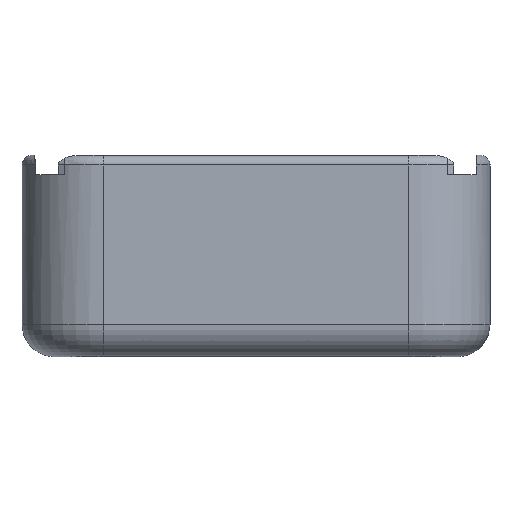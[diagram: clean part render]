
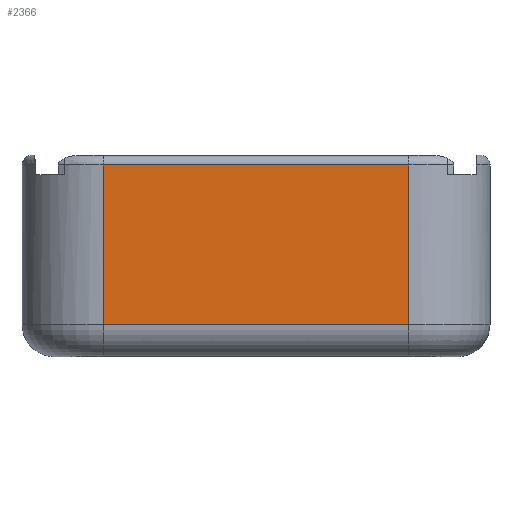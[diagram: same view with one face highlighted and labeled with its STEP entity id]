
A CAD part, left-side view. The second image highlights one B-rep face of the part: STEP entity #2366.
In plain terms, the highlighted planar face has unit normal (-1, 0, 0).
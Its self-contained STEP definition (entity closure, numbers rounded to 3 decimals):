
#44 = CYLINDRICAL_SURFACE('',#45,5.);
#45 = AXIS2_PLACEMENT_3D('',#46,#47,#48);
#46 = CARTESIAN_POINT('',(3.4,3.4,-1.2));
#47 = DIRECTION('',(0.,0.,1.));
#48 = DIRECTION('',(0.,-1.,0.));
#396 = VERTEX_POINT('',#397);
#397 = CARTESIAN_POINT('',(-1.6,3.4,0.8));
#424 = EDGE_CURVE('',#396,#425,#427,.T.);
#425 = VERTEX_POINT('',#426);
#426 = CARTESIAN_POINT('',(-1.6,3.4,10.6));
#427 = SURFACE_CURVE('',#428,(#432,#439),.PCURVE_S1.);
#428 = LINE('',#429,#430);
#429 = CARTESIAN_POINT('',(-1.6,3.4,-1.2));
#430 = VECTOR('',#431,1.);
#431 = DIRECTION('',(0.,0.,1.));
#432 = PCURVE('',#44,#433);
#433 = DEFINITIONAL_REPRESENTATION('',(#434),#438);
#434 = LINE('',#435,#436);
#435 = CARTESIAN_POINT('',(-1.571,0.));
#436 = VECTOR('',#437,1.);
#437 = DIRECTION('',(-0.,1.));
#438 = ( GEOMETRIC_REPRESENTATION_CONTEXT(2) 
PARAMETRIC_REPRESENTATION_CONTEXT() REPRESENTATION_CONTEXT('2D SPACE',''
  ) );
#439 = PCURVE('',#440,#445);
#440 = PLANE('',#441);
#441 = AXIS2_PLACEMENT_3D('',#442,#443,#444);
#442 = CARTESIAN_POINT('',(-1.6,27.2,-1.2));
#443 = DIRECTION('',(1.,0.,-0.));
#444 = DIRECTION('',(0.,-1.,0.));
#445 = DEFINITIONAL_REPRESENTATION('',(#446),#450);
#446 = LINE('',#447,#448);
#447 = CARTESIAN_POINT('',(23.8,0.));
#448 = VECTOR('',#449,1.);
#449 = DIRECTION('',(0.,-1.));
#450 = ( GEOMETRIC_REPRESENTATION_CONTEXT(2) 
PARAMETRIC_REPRESENTATION_CONTEXT() REPRESENTATION_CONTEXT('2D SPACE',''
  ) );
#1806 = CYLINDRICAL_SURFACE('',#1807,5.);
#1807 = AXIS2_PLACEMENT_3D('',#1808,#1809,#1810);
#1808 = CARTESIAN_POINT('',(3.4,22.2,-1.2));
#1809 = DIRECTION('',(0.,0.,1.));
#1810 = DIRECTION('',(-0.,1.,0.));
#2354 = CYLINDRICAL_SURFACE('',#2355,0.6);
#2355 = AXIS2_PLACEMENT_3D('',#2356,#2357,#2358);
#2356 = CARTESIAN_POINT('',(-1.,22.2,10.6));
#2357 = DIRECTION('',(0.,-1.,0.));
#2358 = DIRECTION('',(-1.,-0.,0.));
#2366 = ADVANCED_FACE('',(#2367),#440,.F.);
#2367 = FACE_BOUND('',#2368,.F.);
#2368 = EDGE_LOOP('',(#2369,#2394,#2415,#2416));
#2369 = ORIENTED_EDGE('',*,*,#2370,.T.);
#2370 = EDGE_CURVE('',#2371,#2373,#2375,.T.);
#2371 = VERTEX_POINT('',#2372);
#2372 = CARTESIAN_POINT('',(-1.6,22.2,0.8));
#2373 = VERTEX_POINT('',#2374);
#2374 = CARTESIAN_POINT('',(-1.6,22.2,10.6));
#2375 = SURFACE_CURVE('',#2376,(#2380,#2387),.PCURVE_S1.);
#2376 = LINE('',#2377,#2378);
#2377 = CARTESIAN_POINT('',(-1.6,22.2,-1.2));
#2378 = VECTOR('',#2379,1.);
#2379 = DIRECTION('',(0.,0.,1.));
#2380 = PCURVE('',#440,#2381);
#2381 = DEFINITIONAL_REPRESENTATION('',(#2382),#2386);
#2382 = LINE('',#2383,#2384);
#2383 = CARTESIAN_POINT('',(5.,0.));
#2384 = VECTOR('',#2385,1.);
#2385 = DIRECTION('',(0.,-1.));
#2386 = ( GEOMETRIC_REPRESENTATION_CONTEXT(2) 
PARAMETRIC_REPRESENTATION_CONTEXT() REPRESENTATION_CONTEXT('2D SPACE',''
  ) );
#2387 = PCURVE('',#1806,#2388);
#2388 = DEFINITIONAL_REPRESENTATION('',(#2389),#2393);
#2389 = LINE('',#2390,#2391);
#2390 = CARTESIAN_POINT('',(1.571,0.));
#2391 = VECTOR('',#2392,1.);
#2392 = DIRECTION('',(0.,1.));
#2393 = ( GEOMETRIC_REPRESENTATION_CONTEXT(2) 
PARAMETRIC_REPRESENTATION_CONTEXT() REPRESENTATION_CONTEXT('2D SPACE',''
  ) );
#2394 = ORIENTED_EDGE('',*,*,#2395,.T.);
#2395 = EDGE_CURVE('',#2373,#425,#2396,.T.);
#2396 = SURFACE_CURVE('',#2397,(#2401,#2408),.PCURVE_S1.);
#2397 = LINE('',#2398,#2399);
#2398 = CARTESIAN_POINT('',(-1.6,22.2,10.6));
#2399 = VECTOR('',#2400,1.);
#2400 = DIRECTION('',(0.,-1.,0.));
#2401 = PCURVE('',#440,#2402);
#2402 = DEFINITIONAL_REPRESENTATION('',(#2403),#2407);
#2403 = LINE('',#2404,#2405);
#2404 = CARTESIAN_POINT('',(5.,-11.8));
#2405 = VECTOR('',#2406,1.);
#2406 = DIRECTION('',(1.,0.));
#2407 = ( GEOMETRIC_REPRESENTATION_CONTEXT(2) 
PARAMETRIC_REPRESENTATION_CONTEXT() REPRESENTATION_CONTEXT('2D SPACE',''
  ) );
#2408 = PCURVE('',#2354,#2409);
#2409 = DEFINITIONAL_REPRESENTATION('',(#2410),#2414);
#2410 = LINE('',#2411,#2412);
#2411 = CARTESIAN_POINT('',(-0.,0.));
#2412 = VECTOR('',#2413,1.);
#2413 = DIRECTION('',(-0.,1.));
#2414 = ( GEOMETRIC_REPRESENTATION_CONTEXT(2) 
PARAMETRIC_REPRESENTATION_CONTEXT() REPRESENTATION_CONTEXT('2D SPACE',''
  ) );
#2415 = ORIENTED_EDGE('',*,*,#424,.F.);
#2416 = ORIENTED_EDGE('',*,*,#2417,.F.);
#2417 = EDGE_CURVE('',#2371,#396,#2418,.T.);
#2418 = SURFACE_CURVE('',#2419,(#2423,#2430),.PCURVE_S1.);
#2419 = LINE('',#2420,#2421);
#2420 = CARTESIAN_POINT('',(-1.6,22.2,0.8));
#2421 = VECTOR('',#2422,1.);
#2422 = DIRECTION('',(0.,-1.,0.));
#2423 = PCURVE('',#440,#2424);
#2424 = DEFINITIONAL_REPRESENTATION('',(#2425),#2429);
#2425 = LINE('',#2426,#2427);
#2426 = CARTESIAN_POINT('',(5.,-2.));
#2427 = VECTOR('',#2428,1.);
#2428 = DIRECTION('',(1.,0.));
#2429 = ( GEOMETRIC_REPRESENTATION_CONTEXT(2) 
PARAMETRIC_REPRESENTATION_CONTEXT() REPRESENTATION_CONTEXT('2D SPACE',''
  ) );
#2430 = PCURVE('',#2431,#2436);
#2431 = CYLINDRICAL_SURFACE('',#2432,2.);
#2432 = AXIS2_PLACEMENT_3D('',#2433,#2434,#2435);
#2433 = CARTESIAN_POINT('',(0.4,22.2,0.8));
#2434 = DIRECTION('',(0.,-1.,0.));
#2435 = DIRECTION('',(-1.,-0.,0.));
#2436 = DEFINITIONAL_REPRESENTATION('',(#2437),#2441);
#2437 = LINE('',#2438,#2439);
#2438 = CARTESIAN_POINT('',(0.,0.));
#2439 = VECTOR('',#2440,1.);
#2440 = DIRECTION('',(0.,1.));
#2441 = ( GEOMETRIC_REPRESENTATION_CONTEXT(2) 
PARAMETRIC_REPRESENTATION_CONTEXT() REPRESENTATION_CONTEXT('2D SPACE',''
  ) );
